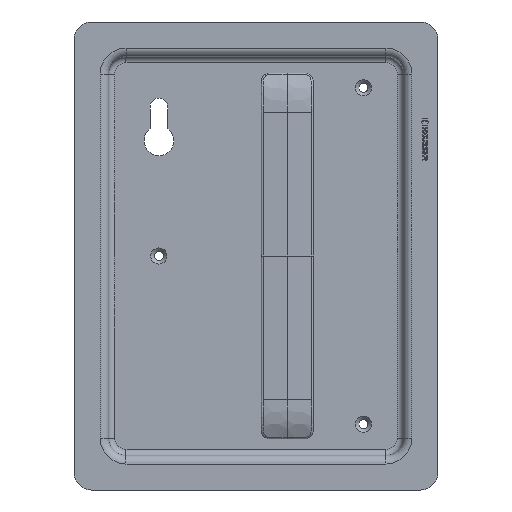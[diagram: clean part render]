
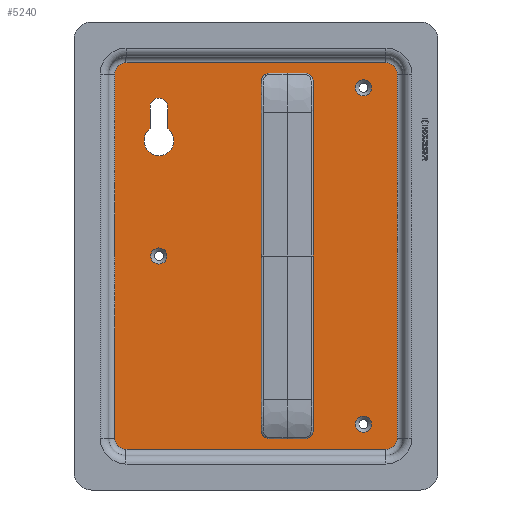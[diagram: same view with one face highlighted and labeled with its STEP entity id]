
A CAD part, front view. The second image highlights one B-rep face of the part: STEP entity #5240.
In plain terms, the highlighted planar face has unit normal (0, -1, 0) as drawn and (0, 0, -1) by its records, which use the part's own axes.
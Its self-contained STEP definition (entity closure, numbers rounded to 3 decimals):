
#268=FACE_BOUND('',#1037,.T.);
#269=FACE_BOUND('',#1038,.T.);
#270=FACE_BOUND('',#1039,.T.);
#271=FACE_BOUND('',#1040,.T.);
#272=FACE_BOUND('',#1041,.T.);
#273=FACE_BOUND('',#1042,.T.);
#274=FACE_BOUND('',#1043,.T.);
#275=FACE_BOUND('',#1044,.T.);
#519=PLANE('',#5670);
#719=FACE_OUTER_BOUND('',#1036,.T.);
#1036=EDGE_LOOP('',(#4019,#4020,#4021,#4022,#4023,#4024,#4025,#4026));
#1037=EDGE_LOOP('',(#4027));
#1038=EDGE_LOOP('',(#4028));
#1039=EDGE_LOOP('',(#4029));
#1040=EDGE_LOOP('',(#4030));
#1041=EDGE_LOOP('',(#4031,#4032,#4033,#4034));
#1042=EDGE_LOOP('',(#4035));
#1043=EDGE_LOOP('',(#4036));
#1044=EDGE_LOOP('',(#4037));
#1349=LINE('',#11774,#1774);
#1353=LINE('',#11784,#1778);
#1355=LINE('',#11792,#1780);
#1356=LINE('',#11796,#1781);
#1357=LINE('',#11800,#1782);
#1358=LINE('',#11804,#1783);
#1774=VECTOR('',#6249,10.);
#1778=VECTOR('',#6261,10.);
#1780=VECTOR('',#6269,10.);
#1781=VECTOR('',#6272,10.);
#1782=VECTOR('',#6275,10.);
#1783=VECTOR('',#6278,10.);
#2163=CIRCLE('',#5649,2.75);
#2165=CIRCLE('',#5652,2.75);
#2167=CIRCLE('',#5655,2.75);
#2169=CIRCLE('',#5658,2.75);
#2172=CIRCLE('',#5662,5.1);
#2174=CIRCLE('',#5666,8.6);
#2175=CIRCLE('',#5669,4.65);
#2176=CIRCLE('',#5671,6.5);
#2177=CIRCLE('',#5672,6.5);
#2178=CIRCLE('',#5673,6.5);
#2179=CIRCLE('',#5674,6.5);
#2180=CIRCLE('',#5675,4.65);
#2181=CIRCLE('',#5676,4.65);
#2392=VERTEX_POINT('',#11738);
#2394=VERTEX_POINT('',#11744);
#2396=VERTEX_POINT('',#11750);
#2398=VERTEX_POINT('',#11756);
#2402=VERTEX_POINT('',#11765);
#2403=VERTEX_POINT('',#11767);
#2405=VERTEX_POINT('',#11773);
#2407=VERTEX_POINT('',#11779);
#2408=VERTEX_POINT('',#11786);
#2409=VERTEX_POINT('',#11790);
#2410=VERTEX_POINT('',#11791);
#2411=VERTEX_POINT('',#11793);
#2412=VERTEX_POINT('',#11795);
#2413=VERTEX_POINT('',#11797);
#2414=VERTEX_POINT('',#11799);
#2415=VERTEX_POINT('',#11801);
#2416=VERTEX_POINT('',#11803);
#2417=VERTEX_POINT('',#11806);
#2418=VERTEX_POINT('',#11808);
#2979=EDGE_CURVE('',#2392,#2392,#2163,.T.);
#2982=EDGE_CURVE('',#2394,#2394,#2165,.T.);
#2985=EDGE_CURVE('',#2396,#2396,#2167,.T.);
#2988=EDGE_CURVE('',#2398,#2398,#2169,.T.);
#2993=EDGE_CURVE('',#2403,#2402,#2172,.T.);
#2996=EDGE_CURVE('',#2405,#2403,#1349,.T.);
#2999=EDGE_CURVE('',#2407,#2405,#2174,.T.);
#3002=EDGE_CURVE('',#2402,#2407,#1353,.T.);
#3003=EDGE_CURVE('',#2408,#2408,#2175,.T.);
#3005=EDGE_CURVE('',#2409,#2410,#1355,.T.);
#3006=EDGE_CURVE('',#2410,#2411,#2176,.T.);
#3007=EDGE_CURVE('',#2411,#2412,#1356,.T.);
#3008=EDGE_CURVE('',#2412,#2413,#2177,.T.);
#3009=EDGE_CURVE('',#2413,#2414,#1357,.T.);
#3010=EDGE_CURVE('',#2414,#2415,#2178,.T.);
#3011=EDGE_CURVE('',#2415,#2416,#1358,.T.);
#3012=EDGE_CURVE('',#2416,#2409,#2179,.T.);
#3013=EDGE_CURVE('',#2417,#2417,#2180,.T.);
#3014=EDGE_CURVE('',#2418,#2418,#2181,.T.);
#4019=ORIENTED_EDGE('',*,*,#3005,.T.);
#4020=ORIENTED_EDGE('',*,*,#3006,.T.);
#4021=ORIENTED_EDGE('',*,*,#3007,.T.);
#4022=ORIENTED_EDGE('',*,*,#3008,.T.);
#4023=ORIENTED_EDGE('',*,*,#3009,.T.);
#4024=ORIENTED_EDGE('',*,*,#3010,.T.);
#4025=ORIENTED_EDGE('',*,*,#3011,.T.);
#4026=ORIENTED_EDGE('',*,*,#3012,.T.);
#4027=ORIENTED_EDGE('',*,*,#2979,.T.);
#4028=ORIENTED_EDGE('',*,*,#2982,.T.);
#4029=ORIENTED_EDGE('',*,*,#2985,.T.);
#4030=ORIENTED_EDGE('',*,*,#2988,.T.);
#4031=ORIENTED_EDGE('',*,*,#2999,.T.);
#4032=ORIENTED_EDGE('',*,*,#2996,.T.);
#4033=ORIENTED_EDGE('',*,*,#2993,.T.);
#4034=ORIENTED_EDGE('',*,*,#3002,.T.);
#4035=ORIENTED_EDGE('',*,*,#3013,.F.);
#4036=ORIENTED_EDGE('',*,*,#3014,.F.);
#4037=ORIENTED_EDGE('',*,*,#3003,.F.);
#5240=ADVANCED_FACE('',(#719,#268,#269,#270,#271,#272,#273,#274,#275),#519, .F.);
#5649=AXIS2_PLACEMENT_3D('',#11739,#6212,#6213);
#5652=AXIS2_PLACEMENT_3D('',#11745,#6219,#6220);
#5655=AXIS2_PLACEMENT_3D('',#11751,#6226,#6227);
#5658=AXIS2_PLACEMENT_3D('',#11757,#6233,#6234);
#5662=AXIS2_PLACEMENT_3D('',#11768,#6243,#6244);
#5666=AXIS2_PLACEMENT_3D('',#11780,#6255,#6256);
#5669=AXIS2_PLACEMENT_3D('',#11787,#6264,#6265);
#5670=AXIS2_PLACEMENT_3D('',#11789,#6267,#6268);
#5671=AXIS2_PLACEMENT_3D('',#11794,#6270,#6271);
#5672=AXIS2_PLACEMENT_3D('',#11798,#6273,#6274);
#5673=AXIS2_PLACEMENT_3D('',#11802,#6276,#6277);
#5674=AXIS2_PLACEMENT_3D('',#11805,#6279,#6280);
#5675=AXIS2_PLACEMENT_3D('',#11807,#6281,#6282);
#5676=AXIS2_PLACEMENT_3D('',#11809,#6283,#6284);
#6212=DIRECTION('center_axis',(0.,0.,1.));
#6213=DIRECTION('ref_axis',(1.,0.,0.));
#6219=DIRECTION('center_axis',(0.,0.,1.));
#6220=DIRECTION('ref_axis',(1.,0.,0.));
#6226=DIRECTION('center_axis',(0.,0.,1.));
#6227=DIRECTION('ref_axis',(1.,0.,0.));
#6233=DIRECTION('center_axis',(0.,0.,1.));
#6234=DIRECTION('ref_axis',(1.,0.,0.));
#6243=DIRECTION('center_axis',(0.,0.,1.));
#6244=DIRECTION('ref_axis',(1.,0.,0.));
#6249=DIRECTION('',(0.,1.,0.));
#6255=DIRECTION('center_axis',(0.,0.,1.));
#6256=DIRECTION('ref_axis',(-0.593,-0.805,0.));
#6261=DIRECTION('',(0.,-1.,0.));
#6264=DIRECTION('center_axis',(0.,0.,-1.));
#6265=DIRECTION('ref_axis',(1.,0.,0.));
#6267=DIRECTION('center_axis',(0.,0.,1.));
#6268=DIRECTION('ref_axis',(1.,0.,0.));
#6269=DIRECTION('',(-1.,0.,0.));
#6270=DIRECTION('center_axis',(0.,0.,-1.));
#6271=DIRECTION('ref_axis',(-0.707,-0.707,0.));
#6272=DIRECTION('',(0.,1.,0.));
#6273=DIRECTION('center_axis',(0.,0.,-1.));
#6274=DIRECTION('ref_axis',(-0.707,0.707,0.));
#6275=DIRECTION('',(1.,0.,0.));
#6276=DIRECTION('center_axis',(0.,0.,-1.));
#6277=DIRECTION('ref_axis',(0.707,0.707,0.));
#6278=DIRECTION('',(0.,-1.,0.));
#6279=DIRECTION('center_axis',(0.,0.,-1.));
#6280=DIRECTION('ref_axis',(0.707,-0.707,0.));
#6281=DIRECTION('center_axis',(0.,0.,-1.));
#6282=DIRECTION('ref_axis',(1.,0.,0.));
#6283=DIRECTION('center_axis',(0.,0.,-1.));
#6284=DIRECTION('ref_axis',(1.,0.,0.));
#11738=CARTESIAN_POINT('',(-18.25,-98.,20.));
#11739=CARTESIAN_POINT('Origin',(-15.5,-98.,20.));
#11744=CARTESIAN_POINT('',(-18.25,98.,20.));
#11745=CARTESIAN_POINT('Origin',(-15.5,98.,20.));
#11750=CARTESIAN_POINT('',(-3.25,98.,20.));
#11751=CARTESIAN_POINT('Origin',(-0.5,98.,20.));
#11756=CARTESIAN_POINT('',(-3.25,-98.,20.));
#11757=CARTESIAN_POINT('Origin',(-0.5,-98.,20.));
#11765=CARTESIAN_POINT('',(60.9,86.,20.));
#11767=CARTESIAN_POINT('',(71.1,86.,20.));
#11768=CARTESIAN_POINT('Origin',(66.,86.,20.));
#11773=CARTESIAN_POINT('',(71.1,73.425,20.));
#11774=CARTESIAN_POINT('',(71.1,36.712,20.));
#11779=CARTESIAN_POINT('',(60.9,73.425,20.));
#11780=CARTESIAN_POINT('Origin',(66.,66.5,20.));
#11784=CARTESIAN_POINT('',(60.9,43.,20.));
#11786=CARTESIAN_POINT('',(61.35,0.,20.));
#11787=CARTESIAN_POINT('Origin',(66.,0.,20.));
#11789=CARTESIAN_POINT('Origin',(10.,0.,20.));
#11790=CARTESIAN_POINT('',(85.,-111.5,20.));
#11791=CARTESIAN_POINT('',(-65.,-111.5,20.));
#11792=CARTESIAN_POINT('',(47.5,-111.5,20.));
#11793=CARTESIAN_POINT('',(-71.5,-105.,20.));
#11794=CARTESIAN_POINT('Origin',(-65.,-105.,20.));
#11795=CARTESIAN_POINT('',(-71.5,105.,20.));
#11796=CARTESIAN_POINT('',(-71.5,-52.5,20.));
#11797=CARTESIAN_POINT('',(-65.,111.5,20.));
#11798=CARTESIAN_POINT('Origin',(-65.,105.,20.));
#11799=CARTESIAN_POINT('',(85.,111.5,20.));
#11800=CARTESIAN_POINT('',(-27.5,111.5,20.));
#11801=CARTESIAN_POINT('',(91.5,105.,20.));
#11802=CARTESIAN_POINT('Origin',(85.,105.,20.));
#11803=CARTESIAN_POINT('',(91.5,-105.,20.));
#11804=CARTESIAN_POINT('',(91.5,52.5,20.));
#11805=CARTESIAN_POINT('Origin',(85.,-105.,20.));
#11806=CARTESIAN_POINT('',(-56.65,-97.,20.));
#11807=CARTESIAN_POINT('Origin',(-52.,-97.,20.));
#11808=CARTESIAN_POINT('',(-56.65,97.,20.));
#11809=CARTESIAN_POINT('Origin',(-52.,97.,20.));
